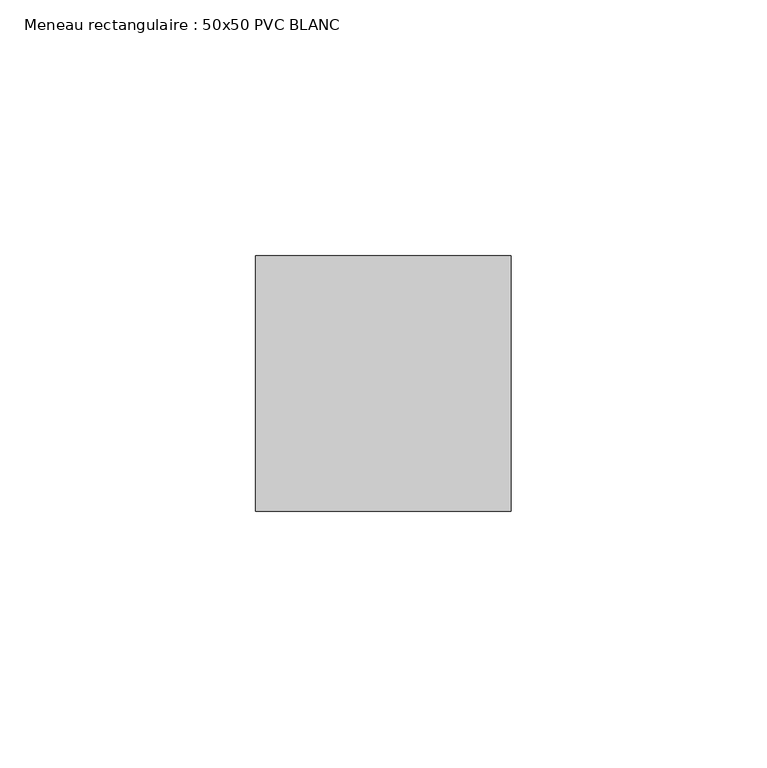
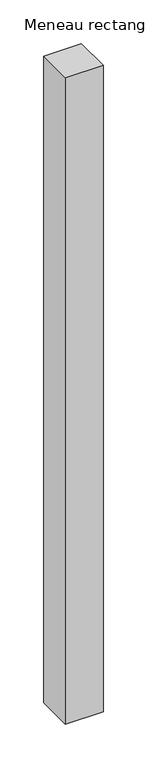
"""IFC4 building model written with IfcOpenShell, lengths in millimetres: member geometry, Meneau rectangulaire : 50x50 PVC BLANC."""

from ifc_helpers import new_model, si_unit, frame, origin, place, context, project, spatial, polyline, outline, extrude, source, transform, mapped, element, save


def meneau_rectangulaire_50x50_pvc_blanc_2c627d0c(model_context):
    return source(origin(), model_context, "Body", "SweptSolid", [
        extrude(outline(polyline([(0.0, 0.0), (0.0, -50.0), (-50.0, -50.0), (-50.0, 0.0), (0.0, 0.0)])), frame((0.0, 0.0, -906.0098072), z_axis=(0.0, 0.0, 1.0), x_axis=(1.0, 0.0, 0.0)), (0.0, 0.0, 1.0), 906.0098072),
    ])


if __name__ == "__main__":
    model = new_model("IFC4")
    model_context = context("Model", 3, world=origin())
    ifc_project = project(units=[si_unit("LENGTHUNIT", "METRE", prefix="MILLI")], contexts=[model_context])
    site = spatial("IfcSite", under=ifc_project)
    building = spatial("IfcBuilding", under=site)
    placement = place(None, origin())
    meneau_rectangulaire_50x50_pvc_blanc_shape = meneau_rectangulaire_50x50_pvc_blanc_2c627d0c(model_context)
    element("IfcMember", 1, ObjectType="Meneau rectangulaire : 50x50 PVC BLANC", at=placement, inside=building, context=model_context, shape_type="MappedRepresentation", body=[
        mapped(meneau_rectangulaire_50x50_pvc_blanc_shape, transform((0.0, 0.0, 0.0), x_axis=(1.0, 0.0, 0.0), y_axis=(0.0, 1.0, 0.0), z_axis=(0.0, 0.0, 1.0))),
    ])
    save(model, "model.ifc")
